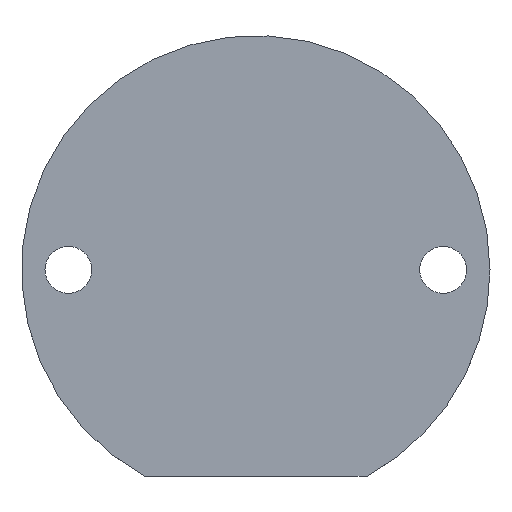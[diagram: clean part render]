
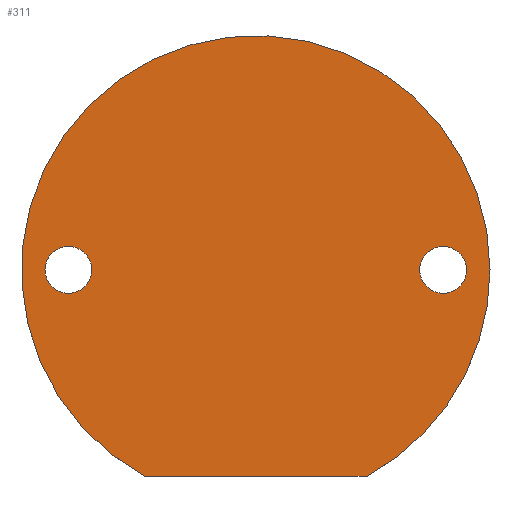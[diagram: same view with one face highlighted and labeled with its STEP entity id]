
A CAD part, top view. The second image highlights one B-rep face of the part: STEP entity #311.
In plain terms, the highlighted planar face has unit normal (0, 0, 1).
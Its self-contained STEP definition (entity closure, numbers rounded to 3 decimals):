
#145=VECTOR('',#256,1.);
#149=LINE('',#286,#145);
#151=PLANE('',#301);
#166=ORIENTED_EDGE('',*,*,#202,.T.);
#167=ORIENTED_EDGE('',*,*,#201,.T.);
#168=ORIENTED_EDGE('',*,*,#205,.F.);
#169=ORIENTED_EDGE('',*,*,#196,.F.);
#170=ORIENTED_EDGE('',*,*,#206,.F.);
#178=CIRCLE('',#293,2.5);
#182=CIRCLE('',#299,25.);
#183=CIRCLE('',#300,25.);
#184=CIRCLE('',#302,2.5);
#186=VERTEX_POINT('',#266);
#191=VERTEX_POINT('',#278);
#192=VERTEX_POINT('',#279);
#193=VERTEX_POINT('',#281);
#194=VERTEX_POINT('',#287);
#196=EDGE_CURVE('',#186,#186,#178,.T.);
#201=EDGE_CURVE('',#191,#192,#182,.T.);
#202=EDGE_CURVE('',#193,#191,#183,.T.);
#205=EDGE_CURVE('',#193,#192,#149,.T.);
#206=EDGE_CURVE('',#194,#194,#184,.T.);
#213=EDGE_LOOP('',(#166,#167,#168));
#214=EDGE_LOOP('',(#169));
#215=EDGE_LOOP('',(#170));
#225=FACE_BOUND('',#213,.T.);
#226=FACE_BOUND('',#214,.T.);
#227=FACE_BOUND('',#215,.T.);
#235=DIRECTION('',(0.,0.,1.));
#236=DIRECTION('',(0.,-2.5,0.));
#248=DIRECTION('',(0.,0.,1.));
#249=DIRECTION('',(25.,0.,0.));
#250=DIRECTION('',(0.,0.,1.));
#251=DIRECTION('',(25.,0.,0.));
#254=DIRECTION('',(0.,0.,1.));
#255=DIRECTION('',(0.,-1.,0.));
#256=DIRECTION('',(-23.749,0.,0.));
#257=DIRECTION('',(0.,0.,1.));
#258=DIRECTION('',(0.,-2.5,0.));
#266=CARTESIAN_POINT('',(-20.,-2.5,2.));
#267=CARTESIAN_POINT('',(-20.,0.,2.));
#278=CARTESIAN_POINT('',(25.,0.,2.));
#279=CARTESIAN_POINT('',(-11.874,-22.,2.));
#280=CARTESIAN_POINT('',(0.,0.,2.));
#281=CARTESIAN_POINT('',(11.874,-22.,2.));
#282=CARTESIAN_POINT('',(0.,0.,2.));
#285=CARTESIAN_POINT('',(0.,0.,2.));
#286=CARTESIAN_POINT('',(11.874,-22.,2.));
#287=CARTESIAN_POINT('',(20.,-2.5,2.));
#288=CARTESIAN_POINT('',(20.,0.,2.));
#293=AXIS2_PLACEMENT_3D('',#267,#235,#236);
#299=AXIS2_PLACEMENT_3D('',#280,#248,#249);
#300=AXIS2_PLACEMENT_3D('',#282,#250,#251);
#301=AXIS2_PLACEMENT_3D('',#285,#254,#255);
#302=AXIS2_PLACEMENT_3D('',#288,#257,#258);
#311=ADVANCED_FACE('',(#225,#226,#227),#151,.T.);
